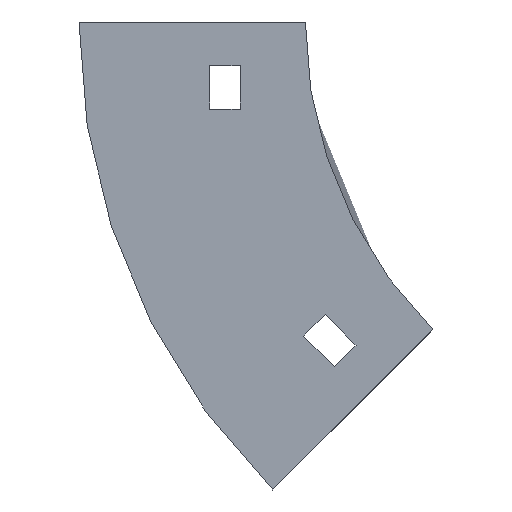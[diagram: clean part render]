
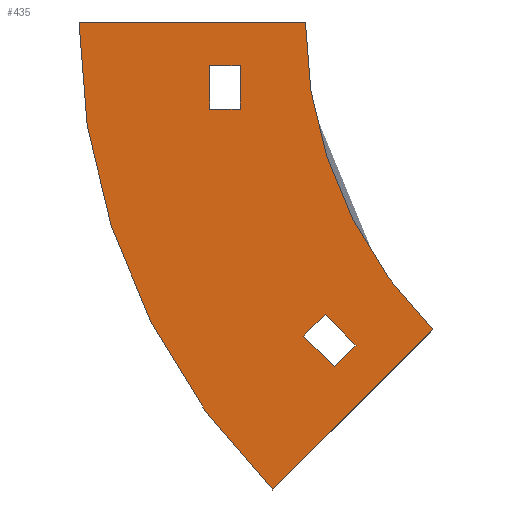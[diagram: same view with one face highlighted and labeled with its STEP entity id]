
A CAD part, left-side view. The second image highlights one B-rep face of the part: STEP entity #435.
In plain terms, the highlighted planar face has unit normal (-1, 0, 0).
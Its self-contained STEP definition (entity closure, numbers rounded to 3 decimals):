
#3 = DIRECTION ( 'NONE',  ( 0., 1., 0. ) ) ;
#8 = VECTOR ( 'NONE', #676, 1000. ) ;
#14 = FACE_OUTER_BOUND ( 'NONE', #816, .T. ) ;
#23 = PLANE ( 'NONE',  #739 ) ;
#24 = DIRECTION ( 'NONE',  ( 1., 0., 0. ) ) ;
#27 = ORIENTED_EDGE ( 'NONE', *, *, #547, .T. ) ;
#38 = VERTEX_POINT ( 'NONE', #293 ) ;
#43 = LINE ( 'NONE', #404, #344 ) ;
#65 = CARTESIAN_POINT ( 'NONE',  ( -152., 52., 0. ) ) ;
#73 = AXIS2_PLACEMENT_3D ( 'NONE', #406, #1117, #305 ) ;
#80 = ORIENTED_EDGE ( 'NONE', *, *, #851, .F. ) ;
#121 = VERTEX_POINT ( 'NONE', #65 ) ;
#123 = AXIS2_PLACEMENT_3D ( 'NONE', #720, #24, #818 ) ;
#131 = CARTESIAN_POINT ( 'NONE',  ( -152., 7.48, -107.48 ) ) ;
#140 = EDGE_CURVE ( 'NONE', #897, #664, #175, .T. ) ;
#143 = ORIENTED_EDGE ( 'NONE', *, *, #224, .T. ) ;
#163 = VECTOR ( 'NONE', #640, 1000. ) ;
#167 = DIRECTION ( 'NONE',  ( -1., 0., 0. ) ) ;
#175 = CIRCLE ( 'NONE', #73, 100. ) ;
#188 = CARTESIAN_POINT ( 'NONE',  ( -152., 15., -10. ) ) ;
#208 = ORIENTED_EDGE ( 'NONE', *, *, #245, .T. ) ;
#223 = EDGE_LOOP ( 'NONE', ( #852, #208, #143, #27 ) ) ;
#224 = EDGE_CURVE ( 'NONE', #571, #38, #1138, .T. ) ;
#244 = CARTESIAN_POINT ( 'NONE',  ( -152., -11.612, -74.246 ) ) ;
#245 = EDGE_CURVE ( 'NONE', #246, #571, #649, .T. ) ;
#246 = VERTEX_POINT ( 'NONE', #188 ) ;
#251 = CARTESIAN_POINT ( 'NONE',  ( -152., 0.409, -72.125 ) ) ;
#265 = EDGE_CURVE ( 'NONE', #628, #121, #788, .T. ) ;
#279 = ORIENTED_EDGE ( 'NONE', *, *, #604, .F. ) ;
#287 = VECTOR ( 'NONE', #907, 1000. ) ;
#293 = CARTESIAN_POINT ( 'NONE',  ( -152., 22., -20. ) ) ;
#299 = CARTESIAN_POINT ( 'NONE',  ( -152., 22., -10. ) ) ;
#305 = DIRECTION ( 'NONE',  ( 0., 0., 1. ) ) ;
#318 = ORIENTED_EDGE ( 'NONE', *, *, #396, .F. ) ;
#339 = VECTOR ( 'NONE', #512, 1000. ) ;
#344 = VECTOR ( 'NONE', #387, 1000. ) ;
#363 = DIRECTION ( 'NONE',  ( 0., 0., 1. ) ) ;
#371 = CARTESIAN_POINT ( 'NONE',  ( -152., -100., 0. ) ) ;
#378 = VECTOR ( 'NONE', #1055, 1000. ) ;
#381 = DIRECTION ( 'NONE',  ( 0., 0., -1. ) ) ;
#387 = DIRECTION ( 'NONE',  ( 0., -0.707, -0.707 ) ) ;
#396 = EDGE_CURVE ( 'NONE', #1059, #924, #1075, .T. ) ;
#404 = CARTESIAN_POINT ( 'NONE',  ( -152., -6.662, -79.196 ) ) ;
#406 = CARTESIAN_POINT ( 'NONE',  ( -152., -100., 0. ) ) ;
#431 = CARTESIAN_POINT ( 'NONE',  ( -152., -29.289, -70.711 ) ) ;
#433 = DIRECTION ( 'NONE',  ( 0., 0.707, -0.707 ) ) ;
#435 = ADVANCED_FACE ( 'NONE', ( #459, #14, #822 ), #23, .T. ) ;
#454 = ORIENTED_EDGE ( 'NONE', *, *, #140, .F. ) ;
#459 = FACE_BOUND ( 'NONE', #223, .T. ) ;
#464 = EDGE_CURVE ( 'NONE', #953, #1059, #43, .T. ) ;
#466 = EDGE_CURVE ( 'NONE', #651, #246, #662, .T. ) ;
#471 = ORIENTED_EDGE ( 'NONE', *, *, #548, .F. ) ;
#512 = DIRECTION ( 'NONE',  ( 0., 0.707, -0.707 ) ) ;
#547 = EDGE_CURVE ( 'NONE', #38, #651, #1109, .T. ) ;
#548 = EDGE_CURVE ( 'NONE', #664, #628, #999, .T. ) ;
#560 = CARTESIAN_POINT ( 'NONE',  ( -152., 22., -10. ) ) ;
#571 = VERTEX_POINT ( 'NONE', #1123 ) ;
#602 = ORIENTED_EDGE ( 'NONE', *, *, #464, .F. ) ;
#604 = EDGE_CURVE ( 'NONE', #121, #897, #1116, .T. ) ;
#628 = VERTEX_POINT ( 'NONE', #131 ) ;
#640 = DIRECTION ( 'NONE',  ( 0., 0., 1. ) ) ;
#649 = LINE ( 'NONE', #1011, #915 ) ;
#651 = VERTEX_POINT ( 'NONE', #560 ) ;
#662 = LINE ( 'NONE', #299, #287 ) ;
#664 = VERTEX_POINT ( 'NONE', #909 ) ;
#676 = DIRECTION ( 'NONE',  ( 0., -1., 0. ) ) ;
#694 = CARTESIAN_POINT ( 'NONE',  ( -152., 22., -20. ) ) ;
#700 = CARTESIAN_POINT ( 'NONE',  ( -152., -11.612, -74.246 ) ) ;
#720 = CARTESIAN_POINT ( 'NONE',  ( -152., -100., 0. ) ) ;
#734 = VECTOR ( 'NONE', #3, 1000. ) ;
#735 = VECTOR ( 'NONE', #863, 1000. ) ;
#739 = AXIS2_PLACEMENT_3D ( 'NONE', #371, #167, #363 ) ;
#771 = LINE ( 'NONE', #251, #777 ) ;
#777 = VECTOR ( 'NONE', #433, 1000. ) ;
#779 = CARTESIAN_POINT ( 'NONE',  ( -152., 0., 0. ) ) ;
#788 = CIRCLE ( 'NONE', #123, 152. ) ;
#816 = EDGE_LOOP ( 'NONE', ( #454, #279, #1013, #471 ) ) ;
#818 = DIRECTION ( 'NONE',  ( 0., 0., 1. ) ) ;
#822 = FACE_BOUND ( 'NONE', #1019, .T. ) ;
#834 = VERTEX_POINT ( 'NONE', #940 ) ;
#851 = EDGE_CURVE ( 'NONE', #834, #953, #771, .T. ) ;
#852 = ORIENTED_EDGE ( 'NONE', *, *, #466, .T. ) ;
#863 = DIRECTION ( 'NONE',  ( 0., 0.707, 0.707 ) ) ;
#897 = VERTEX_POINT ( 'NONE', #779 ) ;
#907 = DIRECTION ( 'NONE',  ( 0., -1., 0. ) ) ;
#909 = CARTESIAN_POINT ( 'NONE',  ( -152., -29.289, -70.711 ) ) ;
#912 = EDGE_CURVE ( 'NONE', #924, #834, #966, .T. ) ;
#915 = VECTOR ( 'NONE', #381, 1000. ) ;
#924 = VERTEX_POINT ( 'NONE', #700 ) ;
#932 = CARTESIAN_POINT ( 'NONE',  ( -152., 22., -10. ) ) ;
#938 = CARTESIAN_POINT ( 'NONE',  ( -152., 52., 0. ) ) ;
#940 = CARTESIAN_POINT ( 'NONE',  ( -152., -4.541, -67.175 ) ) ;
#949 = ORIENTED_EDGE ( 'NONE', *, *, #912, .F. ) ;
#953 = VERTEX_POINT ( 'NONE', #989 ) ;
#959 = CARTESIAN_POINT ( 'NONE',  ( -152., -6.662, -79.196 ) ) ;
#966 = LINE ( 'NONE', #244, #735 ) ;
#971 = CARTESIAN_POINT ( 'NONE',  ( -152., -6.662, -79.196 ) ) ;
#989 = CARTESIAN_POINT ( 'NONE',  ( -152., 0.409, -72.125 ) ) ;
#999 = LINE ( 'NONE', #431, #339 ) ;
#1011 = CARTESIAN_POINT ( 'NONE',  ( -152., 15., -10. ) ) ;
#1013 = ORIENTED_EDGE ( 'NONE', *, *, #265, .F. ) ;
#1019 = EDGE_LOOP ( 'NONE', ( #949, #318, #602, #80 ) ) ;
#1055 = DIRECTION ( 'NONE',  ( 0., -0.707, 0.707 ) ) ;
#1059 = VERTEX_POINT ( 'NONE', #971 ) ;
#1075 = LINE ( 'NONE', #959, #378 ) ;
#1109 = LINE ( 'NONE', #932, #163 ) ;
#1116 = LINE ( 'NONE', #938, #8 ) ;
#1117 = DIRECTION ( 'NONE',  ( -1., 0., 0. ) ) ;
#1123 = CARTESIAN_POINT ( 'NONE',  ( -152., 15., -20. ) ) ;
#1138 = LINE ( 'NONE', #694, #734 ) ;
